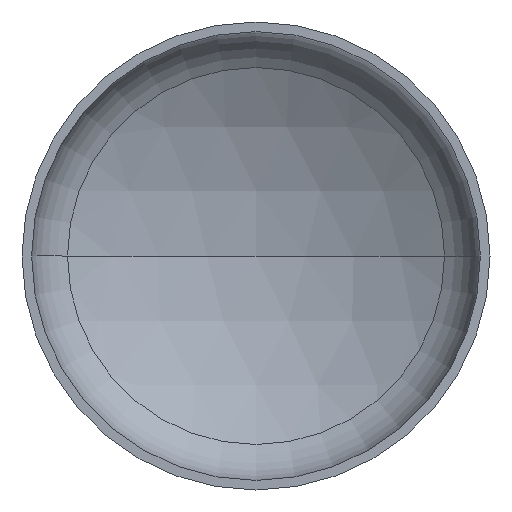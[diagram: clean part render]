
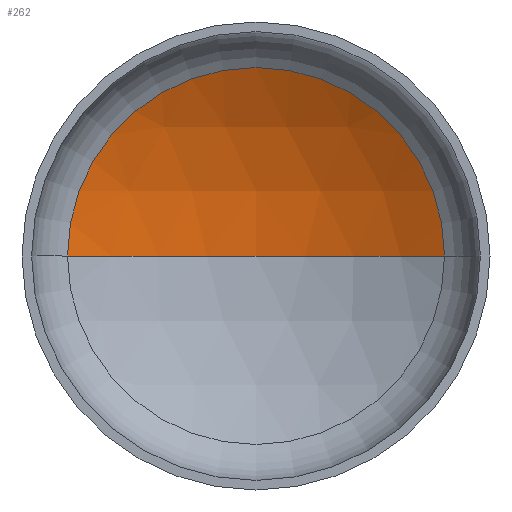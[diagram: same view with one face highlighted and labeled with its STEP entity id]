
A CAD part, front view. The second image highlights one B-rep face of the part: STEP entity #262.
In plain terms, the highlighted spherical face has radius 2720 mm.
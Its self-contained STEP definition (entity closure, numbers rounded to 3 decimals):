
#13 = EDGE_LOOP ( 'NONE', ( #114, #68, #110 ) ) ;
#14 = AXIS2_PLACEMENT_3D ( 'NONE', #401, #260, #66 ) ;
#16 = VERTEX_POINT ( 'NONE', #358 ) ;
#18 = AXIS2_PLACEMENT_3D ( 'NONE', #144, #145, #146 ) ;
#19 = AXIS2_PLACEMENT_3D ( 'NONE', #242, #373, #178 ) ;
#41 = AXIS2_PLACEMENT_3D ( 'NONE', #217, #312, #196 ) ;
#49 = CIRCLE ( 'NONE', #18, 1369.294 ) ;
#52 = VERTEX_POINT ( 'NONE', #277 ) ;
#66 = DIRECTION ( 'NONE',  ( -1., 0., 0. ) ) ;
#68 = ORIENTED_EDGE ( 'NONE', *, *, #348, .T. ) ;
#110 = ORIENTED_EDGE ( 'NONE', *, *, #329, .T. ) ;
#114 = ORIENTED_EDGE ( 'NONE', *, *, #350, .F. ) ;
#117 = VERTEX_POINT ( 'NONE', #299 ) ;
#131 = CIRCLE ( 'NONE', #14, 2720. ) ;
#144 = CARTESIAN_POINT ( 'NONE',  ( 0., 573.623, 0. ) ) ;
#145 = DIRECTION ( 'NONE',  ( 0., -1., 0. ) ) ;
#146 = DIRECTION ( 'NONE',  ( 1., 0., 0. ) ) ;
#178 = DIRECTION ( 'NONE',  ( 1., 0., 0. ) ) ;
#196 = DIRECTION ( 'NONE',  ( -1., 0., 0. ) ) ;
#217 = CARTESIAN_POINT ( 'NONE',  ( 0., -1776.576, 0. ) ) ;
#242 = CARTESIAN_POINT ( 'NONE',  ( 0., -1776.576, 0. ) ) ;
#260 = DIRECTION ( 'NONE',  ( 0., 0., -1. ) ) ;
#262 = ADVANCED_FACE ( 'NONE', ( #326 ), #393, .F. ) ;
#277 = CARTESIAN_POINT ( 'NONE',  ( -1369.294, 573.623, 0. ) ) ;
#299 = CARTESIAN_POINT ( 'NONE',  ( 0., 943.424, 0. ) ) ;
#312 = DIRECTION ( 'NONE',  ( 0., 0., -1. ) ) ;
#326 = FACE_OUTER_BOUND ( 'NONE', #13, .T. ) ;
#329 = EDGE_CURVE ( 'NONE', #16, #52, #49, .T. ) ;
#348 = EDGE_CURVE ( 'NONE', #117, #16, #131, .T. ) ;
#350 = EDGE_CURVE ( 'NONE', #117, #52, #391, .T. ) ;
#358 = CARTESIAN_POINT ( 'NONE',  ( 1369.294, 573.623, 0. ) ) ;
#373 = DIRECTION ( 'NONE',  ( 0., 0., 1. ) ) ;
#391 = CIRCLE ( 'NONE', #19, 2720. ) ;
#393 = SPHERICAL_SURFACE ( 'NONE', #41, 2720. ) ;
#401 = CARTESIAN_POINT ( 'NONE',  ( 0., -1776.576, 0. ) ) ;
